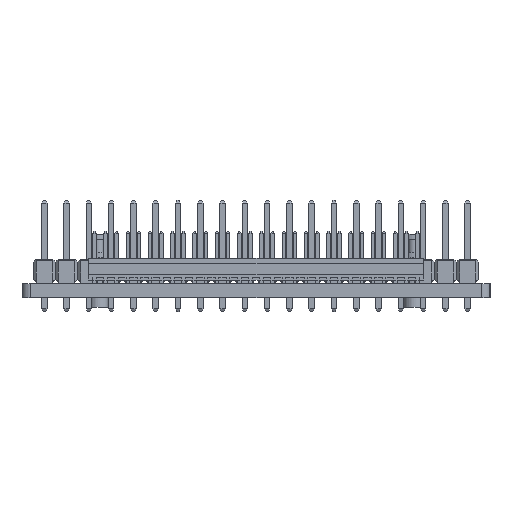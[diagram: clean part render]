
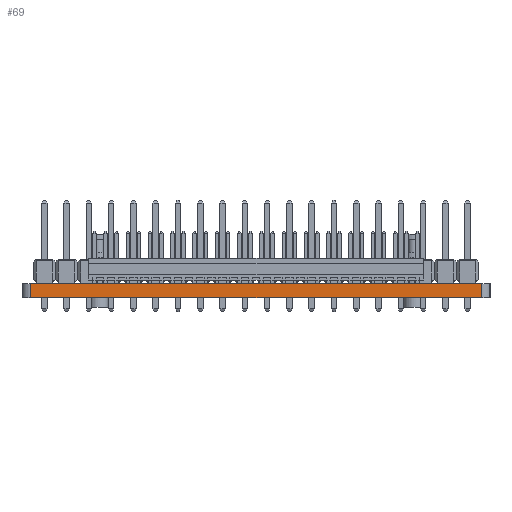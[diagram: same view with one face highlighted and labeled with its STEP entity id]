
A CAD part, left-side view. The second image highlights one B-rep face of the part: STEP entity #69.
In plain terms, the highlighted planar face has unit normal (-1, 0, 0).
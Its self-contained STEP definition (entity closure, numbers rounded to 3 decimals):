
#69 = ADVANCED_FACE('',(#70),#104,.T.);
#70 = FACE_BOUND('',#71,.T.);
#71 = EDGE_LOOP('',(#72,#82,#90,#98));
#72 = ORIENTED_EDGE('',*,*,#73,.T.);
#73 = EDGE_CURVE('',#74,#76,#78,.T.);
#74 = VERTEX_POINT('',#75);
#75 = CARTESIAN_POINT('',(0.,1.,0.));
#76 = VERTEX_POINT('',#77);
#77 = CARTESIAN_POINT('',(0.,1.,1.62));
#78 = LINE('',#79,#80);
#79 = CARTESIAN_POINT('',(0.,1.,0.));
#80 = VECTOR('',#81,1.);
#81 = DIRECTION('',(0.,0.,1.));
#82 = ORIENTED_EDGE('',*,*,#83,.T.);
#83 = EDGE_CURVE('',#76,#84,#86,.T.);
#84 = VERTEX_POINT('',#85);
#85 = CARTESIAN_POINT('',(0.,52.34,1.62));
#86 = LINE('',#87,#88);
#87 = CARTESIAN_POINT('',(0.,1.,1.62));
#88 = VECTOR('',#89,1.);
#89 = DIRECTION('',(0.,1.,0.));
#90 = ORIENTED_EDGE('',*,*,#91,.F.);
#91 = EDGE_CURVE('',#92,#84,#94,.T.);
#92 = VERTEX_POINT('',#93);
#93 = CARTESIAN_POINT('',(0.,52.34,0.));
#94 = LINE('',#95,#96);
#95 = CARTESIAN_POINT('',(0.,52.34,0.));
#96 = VECTOR('',#97,1.);
#97 = DIRECTION('',(0.,0.,1.));
#98 = ORIENTED_EDGE('',*,*,#99,.F.);
#99 = EDGE_CURVE('',#74,#92,#100,.T.);
#100 = LINE('',#101,#102);
#101 = CARTESIAN_POINT('',(0.,1.,0.));
#102 = VECTOR('',#103,1.);
#103 = DIRECTION('',(0.,1.,0.));
#104 = PLANE('',#105);
#105 = AXIS2_PLACEMENT_3D('',#106,#107,#108);
#106 = CARTESIAN_POINT('',(0.,1.,0.));
#107 = DIRECTION('',(-1.,0.,0.));
#108 = DIRECTION('',(0.,1.,0.));
